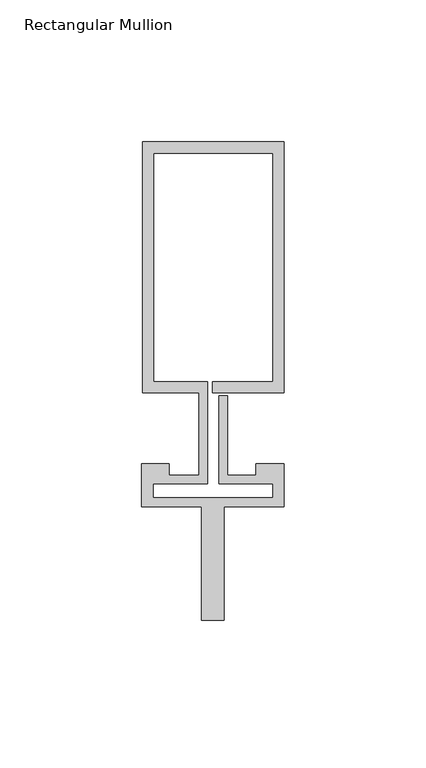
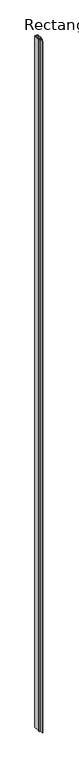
"""IFC4 building model written with IfcOpenShell, lengths in millimetres: member geometry, Rectangular Mullion : Reynaers_CW-50_Mullion-Transom_Horizontal_88.4mm_Facecap-06B."""

from ifc_helpers import new_model, si_unit, frame, origin, place, context, project, spatial, polyline, outline, extrude, source, transform, mapped, element, save


def rectangular_mullion_a5e0a4a2(model_context):
    return source(origin(), model_context, "Body", "SweptSolid", [
        extrude(outline(polyline([(-24.8004059, 100.9), (25.1995941, 100.9), (25.1995941, 12.5), (0.0, 12.5), (0.0, 16.5), (21.1995941, 16.5), (21.1995941, 96.9), (-20.8004059, 96.9), (-20.8004059, 16.5), (-1.9004059, 16.5), (-1.9004059, -19.5), (-20.994845, -19.5), (-20.994845, -24.4191338), (21.1995941, -24.4191338), (21.1995941, -19.5), (2.2995941, -19.5), (2.2995941, 11.5), (5.2995941, 11.5), (5.2995941, -16.5), (15.2996495, -16.5), (15.2996495, -12.5), (25.1995941, -12.5), (25.1995941, -27.5), (4.004855, -27.5), (4.004855, -67.5), (-3.995145, -67.5), (-3.995145, -27.5), (-24.994845, -27.5), (-24.994845, -12.5), (-15.2996495, -12.5), (-15.2996495, -16.5), (-4.9004059, -16.5), (-4.9004059, 12.5), (-24.8004059, 12.5), (-24.8004059, 100.9)])), frame((0.0, 0.0, -12000.0), z_axis=(0.0, 0.0, 1.0), x_axis=(1.0, 0.0, 0.0)), (0.0, 0.0, 1.0), 12000.0),
    ])


if __name__ == "__main__":
    model = new_model("IFC4")
    model_context = context("Model", 3, world=origin())
    ifc_project = project(units=[si_unit("LENGTHUNIT", "METRE", prefix="MILLI")], contexts=[model_context])
    site = spatial("IfcSite", under=ifc_project)
    building = spatial("IfcBuilding", under=site)
    placement = place(None, origin())
    rectangular_mullion_shape = rectangular_mullion_a5e0a4a2(model_context)
    element("IfcMember", 1, ObjectType="Rectangular Mullion : Reynaers_CW-50_Mullion-Transom_Horizontal_88.4mm_Facecap-06B", at=placement, inside=building, context=model_context, shape_type="MappedRepresentation", body=[
        mapped(rectangular_mullion_shape, transform((0.0, 0.0, 0.0), x_axis=(1.0, 0.0, 0.0), y_axis=(0.0, 1.0, 0.0), z_axis=(0.0, 0.0, 1.0))),
    ])
    save(model, "model.ifc")
